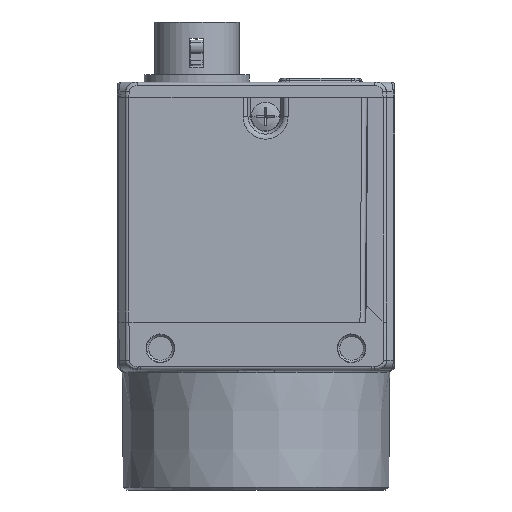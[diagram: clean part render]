
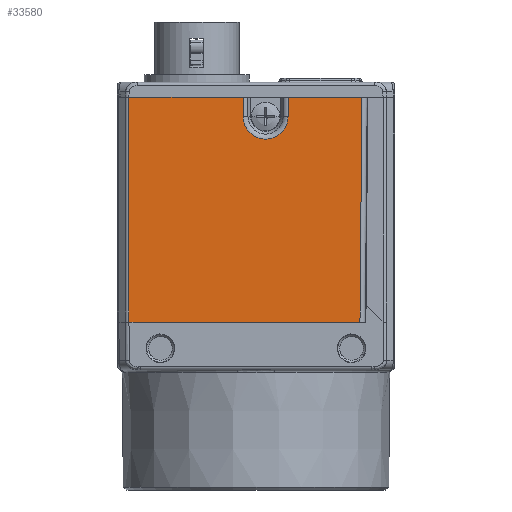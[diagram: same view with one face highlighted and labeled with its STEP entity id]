
A CAD part, left-side view. The second image highlights one B-rep face of the part: STEP entity #33580.
In plain terms, the highlighted planar face has unit normal (-1, 0, 0).
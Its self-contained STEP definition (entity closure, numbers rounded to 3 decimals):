
#10037=DIRECTION('',(0.,0.,1.));
#10038=VECTOR('',#10037,23.5);
#10039=CARTESIAN_POINT('',(-14.5,13.293,
-0.5));
#10040=LINE('',#10039,#10038);
#10041=CARTESIAN_POINT('',(-14.5,-1.,21.));
#10042=DIRECTION('',(-1.,0.,0.));
#10043=DIRECTION('',(0.,1.,0.));
#10044=AXIS2_PLACEMENT_3D('',#10041,#10042,#10043);
#10046=DIRECTION('',(0.,0.009,-1.));
#10047=VECTOR('',#10046,23.501);
#10048=CARTESIAN_POINT('',(-14.5,-11.085,
23.));
#10049=LINE('',#10048,#10047);
#10184=DIRECTION('',(0.,-1.,0.));
#10185=VECTOR('',#10184,24.173);
#10186=CARTESIAN_POINT('',(-14.5,13.293,
-0.5));
#10187=LINE('',#10186,#10185);
#10907=CARTESIAN_POINT('',(-14.5,13.293,
-0.5));
#10924=CARTESIAN_POINT('',(-14.5,13.293,
23.));
#10944=DIRECTION('',(0.,-1.,0.));
#10945=VECTOR('',#10944,11.935);
#10946=CARTESIAN_POINT('',(-14.5,13.293,
23.));
#10947=LINE('',#10946,#10945);
#11032=DIRECTION('',(0.,-1.,0.));
#11033=VECTOR('',#11032,7.727);
#11034=CARTESIAN_POINT('',(-14.5,-3.358,23.));
#11035=LINE('',#11034,#11033);
#11957=DIRECTION('',(0.,0.,-1.));
#11958=VECTOR('',#11957,2.);
#11959=CARTESIAN_POINT('',(-14.5,-3.358,23.));
#11960=LINE('',#11959,#11958);
#11971=DIRECTION('',(0.,0.,1.));
#11972=VECTOR('',#11971,2.);
#11973=CARTESIAN_POINT('',(-14.5,1.358,21.));
#11974=LINE('',#11973,#11972);
#19082=CARTESIAN_POINT('',(-14.5,1.358,21.));
#19083=CARTESIAN_POINT('',(-14.5,-3.358,21.));
#19084=VERTEX_POINT('',#19082);
#19085=VERTEX_POINT('',#19083);
#20632=VERTEX_POINT('',#10907);
#20633=CARTESIAN_POINT('',(-14.5,-10.88,
-0.5));
#20634=VERTEX_POINT('',#20633);
#20685=VERTEX_POINT('',#10924);
#20686=CARTESIAN_POINT('',(-14.5,1.358,23.));
#20687=VERTEX_POINT('',#20686);
#20688=CARTESIAN_POINT('',(-14.5,-3.358,23.));
#20689=CARTESIAN_POINT('',(-14.5,-11.085,
23.));
#20690=VERTEX_POINT('',#20688);
#20691=VERTEX_POINT('',#20689);
#33558=CARTESIAN_POINT('',(-14.5,1.104,11.25));
#33559=DIRECTION('',(1.,0.,0.));
#33560=DIRECTION('',(0.,-1.,0.));
#33561=AXIS2_PLACEMENT_3D('',#33558,#33559,#33560);
#33562=PLANE('',#33561);
#33564=ORIENTED_EDGE('',*,*,#33563,.F.);
#33566=ORIENTED_EDGE('',*,*,#33565,.T.);
#33568=ORIENTED_EDGE('',*,*,#33567,.T.);
#33570=ORIENTED_EDGE('',*,*,#33569,.F.);
#33572=ORIENTED_EDGE('',*,*,#33571,.T.);
#33574=ORIENTED_EDGE('',*,*,#33573,.F.);
#33576=ORIENTED_EDGE('',*,*,#33575,.T.);
#33577=ORIENTED_EDGE('',*,*,#33551,.T.);
#33578=EDGE_LOOP('',(#33564,#33566,#33568,#33570,#33572,#33574,#33576,#33577));
#33579=FACE_OUTER_BOUND('',#33578,.F.);
#33580=ADVANCED_FACE('',(#33579),#33562,.F.);
#10045=CIRCLE('',#10044,2.358);
#33551=EDGE_CURVE('',#20691,#20634,#10049,.T.);
#33563=EDGE_CURVE('',#20632,#20634,#10187,.T.);
#33565=EDGE_CURVE('',#20632,#20685,#10040,.T.);
#33567=EDGE_CURVE('',#20685,#20687,#10947,.T.);
#33569=EDGE_CURVE('',#19084,#20687,#11974,.T.);
#33571=EDGE_CURVE('',#19084,#19085,#10045,.T.);
#33573=EDGE_CURVE('',#20690,#19085,#11960,.T.);
#33575=EDGE_CURVE('',#20690,#20691,#11035,.T.);
